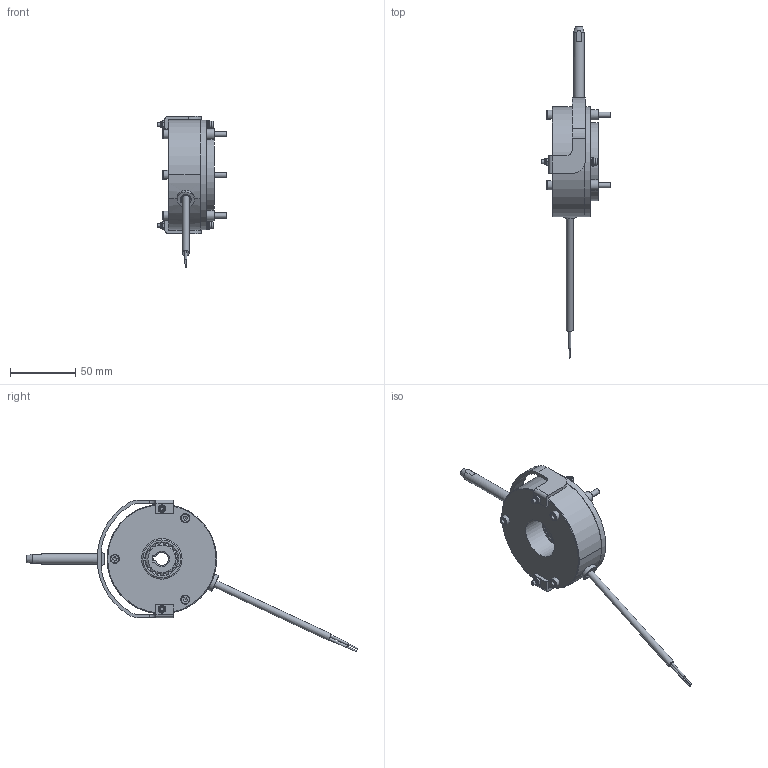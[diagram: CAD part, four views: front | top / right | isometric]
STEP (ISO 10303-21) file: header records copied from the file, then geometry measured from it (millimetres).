
FILE_DESCRIPTION(/* description */ (''),/* implementation_level */ '2;1');
FILE_NAME(/* name */ 'C:\SapWorkDir\Inventor\IP1\ConvertTempPath\5028508_IPT_000.ipt.stp',/* time_stamp */ '2020-08-27T10:48:11+02:00',/* author */ ('STRATE'),/* organization */ (''),/* preprocessor_version */ 'ST-DEVELOPER v17',/* originating_system */ 'Autodesk Inventor 2018',/* authorisation */ '');
FILE_SCHEMA (('AUTOMOTIVE_DESIGN { 1 0 10303 214 3 1 1 }'));
Length unit declared in the file: millimetre
Products named in the file (1): 5028508
Bounding box: 53.4 x 254.22 x 116.18 mm (x, y, z)
Volume: 171999.5 mm3; surface area: 54515.8 mm2
Topology: 4 solids, 4 shells, 388 faces, 1037 edges, 695 vertices
Faces by surface type: cylinder 204, plane 136, cone 35, torus 11, bspline 2
Full cylindrical faces by diameter (mm): 1 x2, 1.85 x2, 3 x5, 3.2 x2, 3.242 x2, 4 x5, 4.134 x1, 4.4 x3, 4.675 x2, 4.8 x5, 5.3 x1, 5.5 x2, 6.3 x2, 6.6 x1, 7 x5, 8 x4, 8.8 x6, 13.2 x1, 29 x1, 31 x2, 39.5 x2, 40 x2, 60 x1, 84 x1
Entity records: 14830 total; most frequent: CARTESIAN_POINT 4583, ORIENTED_EDGE 2066, DIRECTION 2022, EDGE_CURVE 1033, AXIS2_PLACEMENT_3D 813, VERTEX_POINT 697, EDGE_LOOP 468, CIRCLE 426
